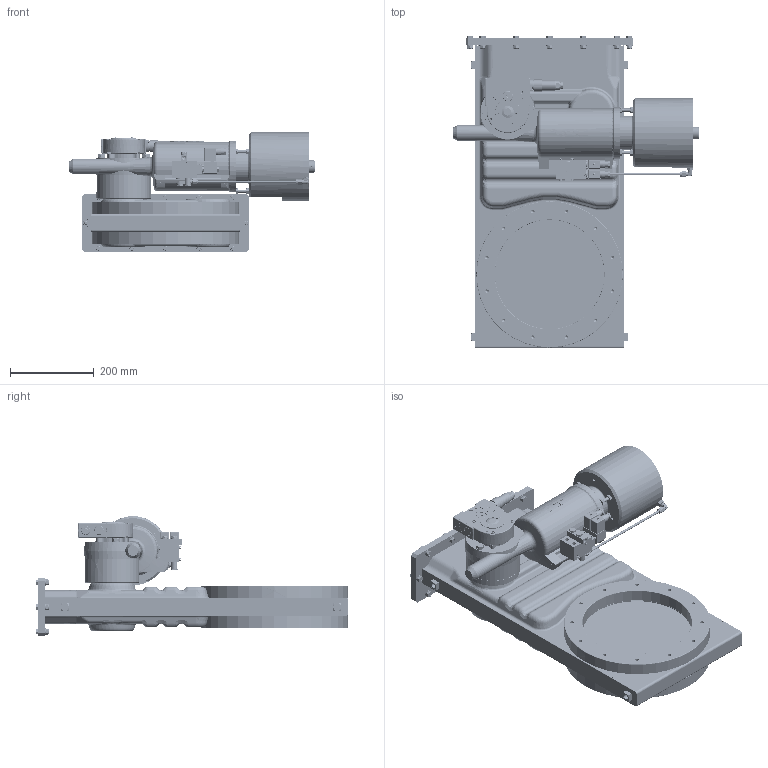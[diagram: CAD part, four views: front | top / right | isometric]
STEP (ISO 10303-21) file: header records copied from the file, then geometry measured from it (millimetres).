
FILE_DESCRIPTION(/* description */ (''),/* implementation_level */ '2;1');
FILE_NAME(/* name */ '1757291756_203.stp',/* time_stamp */ '2020-01-03T11:00:21+01:00',/* author */ (''),/* organization */ (''),/* preprocessor_version */ 'ST-DEVELOPER v16',/* originating_system */ 'SIEMENS PLM Software NX 11.0',/* authorisation */ '');
FILE_SCHEMA (('AP203_CONFIGURATION_CONTROLLED_3D_DESIGN_OF_MECHANICAL_PARTS_AND_ASSEMBLIES_MIM_LF { 1 0 10303 403 2 1 2}'));
Products named in the file (65): 374665; 224474.6; 224476.6; 224477.6; 1009931; 467863; 467864; N-7501-501_1.2; N-7501-501_2.2; N-6091-458.1; 326349.1; 50058-01.2; 50053-01.2; 50053-01.2_25979ID; N-6029-102.1; 60538-01_2.1; 60538-01.1; N-6029-112.1; N-6016-123.1; 60539-01.1; 60532-01_1.2; N-8504-102.3; N-6027-015.3; n-8504-002; N-6289-133.2; N-6203-417.1; N-6203-105.1; N-6005-474.1; N-6072-440.1; 230594.2; N-6001-499.1; 230595.2; 226273.1; 230591.1; 230750.3; n-6162-406; N-6039-010.1; N-6051-011.1; N-7015-015.2; N-6160-011.1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
Assembly tree (155 placements, depth 4):
  855542
    83586-R1_1.5
      N-6036-003.1  x2
      37324-05.1
      n-7016-010  x4
      N-7501-501.4_NX-ARRAGMNTKONFIG1  x2
        N-7501-501_2.2
        N-7501-501_1.2
      n-7612-031
      n-7635-310
      n-8501-300_NX-ARRAGMNTArrangement 1  x2
        467864
        467863
        1009931
      48742-01.1
      N-5062-003.1  x2
      N-6016-152.1  x2
      N-7618-010.2
      N-6160-011.1  x2
      N-7015-015.2  x4
      N-6051-011.1  x2
      N-6039-010.1
    230600_2.3
      n-6162-406  x8
      230750.3
      230591.1
      226273.1
      230595.2
      N-6001-499.1  x3
      230594.2
      N-6072-440.1
      N-6005-474.1  x8
      N-6053-412.2  x3
      N-6203-105.1
      N-6203-417.1
    60550-R1_2.2
      N-6289-133.2
      n-8504-002
      N-6027-015.3  x2
      N-8504-102.3
      60532-01_1.2  x2
      60539-01.1
      N-6016-123.1  x4
      N-6029-112.1  x2
      60538-01.1
      60538-01_2.1
      N-6029-102.1  x2
    N-5021-497.1  x12
    N-6053-412.2  x12
    50048-R1.8
      374705_MODEL
        224477.6
        224476.6
        224474.6
        374665  x2
      50053-01.2_25979ID
      50053-01.2
      50058-01.2
      326349.1  x4
      N-6091-458.1  x2
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Bounding box: 587.15 x 746.4 x 285.85 mm (x, y, z)
Volume: 10434058.1 mm3; surface area: 2680746.9 mm2
Topology: 225 solids, 225 shells, 5075 faces, 11544 edges, 7230 vertices
Faces by surface type: plane 2373, cylinder 1453, cone 474, bspline 453, torus 193, sphere 91, extrusion 38
Full cylindrical faces by diameter (mm): 1.5 x7, 1.6 x2, 1.66 x7, 1.8 x10, 2 x24, 2.2 x2, 2.25 x20, 2.45 x20, 2.55 x4, 2.657 x1, 2.9 x4, 3 x15, 3.025 x8, 3.07 x12, 3.2 x8, 3.251 x1, 3.26 x4, 3.28 x8, 3.3 x12, 3.4 x4, 3.6 x2, 3.8 x1, 3.85 x4, 4 x20, 4.16 x3, 4.2 x5, 4.4 x4, 4.5 x3, 4.55 x8, 4.9 x2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
Entity records: 119271 total; most frequent: CARTESIAN_POINT 33396, DIRECTION 15117, ORIENTED_EDGE 13850, EDGE_CURVE 6925, AXIS2_PLACEMENT_3D 6165, VERTEX_POINT 4780, EDGE_LOOP 4635, ADVANCED_FACE 3355
